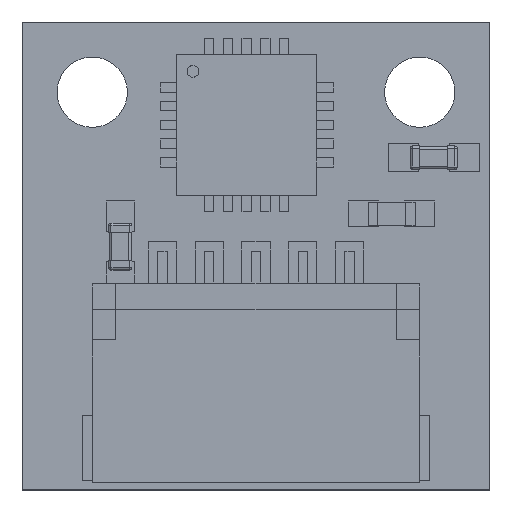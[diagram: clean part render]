
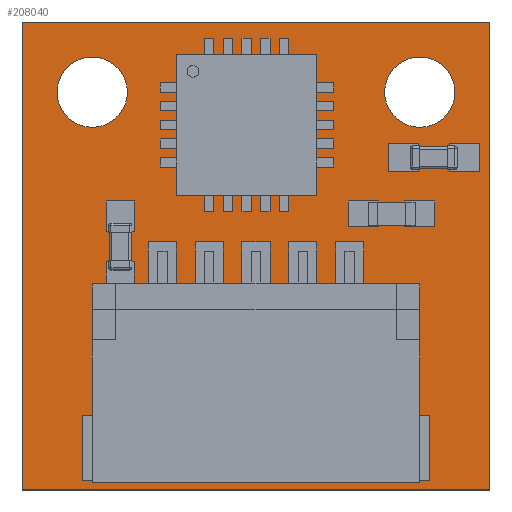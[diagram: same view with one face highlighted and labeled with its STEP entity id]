
A CAD part, top view. The second image highlights one B-rep face of the part: STEP entity #208040.
In plain terms, the highlighted planar face has unit normal (0, 0, 1).
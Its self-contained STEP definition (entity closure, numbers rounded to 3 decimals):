
#207564 = VERTEX_POINT('',#207565);
#207565 = CARTESIAN_POINT('',(15.,10.,0.6));
#207572 = PLANE('',#207573);
#207573 = AXIS2_PLACEMENT_3D('',#207574,#207575,#207576);
#207574 = CARTESIAN_POINT('',(15.,10.,0.));
#207575 = DIRECTION('',(0.,1.,0.));
#207576 = DIRECTION('',(1.,0.,0.));
#207584 = PLANE('',#207585);
#207585 = AXIS2_PLACEMENT_3D('',#207586,#207587,#207588);
#207586 = CARTESIAN_POINT('',(15.,20.,0.));
#207587 = DIRECTION('',(1.,0.,0.));
#207588 = DIRECTION('',(0.,-1.,0.));
#207596 = EDGE_CURVE('',#207564,#207597,#207599,.T.);
#207597 = VERTEX_POINT('',#207598);
#207598 = CARTESIAN_POINT('',(25.,10.,0.6));
#207599 = SURFACE_CURVE('',#207600,(#207604,#207611),.PCURVE_S1.);
#207600 = LINE('',#207601,#207602);
#207601 = CARTESIAN_POINT('',(15.,10.,0.6));
#207602 = VECTOR('',#207603,1.);
#207603 = DIRECTION('',(1.,0.,0.));
#207604 = PCURVE('',#207572,#207605);
#207605 = DEFINITIONAL_REPRESENTATION('',(#207606),#207610);
#207606 = LINE('',#207607,#207608);
#207607 = CARTESIAN_POINT('',(0.,-0.6));
#207608 = VECTOR('',#207609,1.);
#207609 = DIRECTION('',(1.,0.));
#207610 = ( GEOMETRIC_REPRESENTATION_CONTEXT(2) 
PARAMETRIC_REPRESENTATION_CONTEXT() REPRESENTATION_CONTEXT('2D SPACE',''
  ) );
#207611 = PCURVE('',#207612,#207617);
#207612 = PLANE('',#207613);
#207613 = AXIS2_PLACEMENT_3D('',#207614,#207615,#207616);
#207614 = CARTESIAN_POINT('',(20.,15.,0.6));
#207615 = DIRECTION('',(0.,0.,1.));
#207616 = DIRECTION('',(1.,0.,-0.));
#207617 = DEFINITIONAL_REPRESENTATION('',(#207618),#207622);
#207618 = LINE('',#207619,#207620);
#207619 = CARTESIAN_POINT('',(-5.,-5.));
#207620 = VECTOR('',#207621,1.);
#207621 = DIRECTION('',(1.,0.));
#207622 = ( GEOMETRIC_REPRESENTATION_CONTEXT(2) 
PARAMETRIC_REPRESENTATION_CONTEXT() REPRESENTATION_CONTEXT('2D SPACE',''
  ) );
#207640 = PLANE('',#207641);
#207641 = AXIS2_PLACEMENT_3D('',#207642,#207643,#207644);
#207642 = CARTESIAN_POINT('',(25.,10.,0.));
#207643 = DIRECTION('',(-1.,0.,0.));
#207644 = DIRECTION('',(0.,1.,0.));
#207684 = VERTEX_POINT('',#207685);
#207685 = CARTESIAN_POINT('',(15.,20.,0.6));
#207699 = PLANE('',#207700);
#207700 = AXIS2_PLACEMENT_3D('',#207701,#207702,#207703);
#207701 = CARTESIAN_POINT('',(25.,20.,0.));
#207702 = DIRECTION('',(0.,-1.,0.));
#207703 = DIRECTION('',(-1.,0.,0.));
#207711 = EDGE_CURVE('',#207684,#207564,#207712,.T.);
#207712 = SURFACE_CURVE('',#207713,(#207717,#207724),.PCURVE_S1.);
#207713 = LINE('',#207714,#207715);
#207714 = CARTESIAN_POINT('',(15.,20.,0.6));
#207715 = VECTOR('',#207716,1.);
#207716 = DIRECTION('',(0.,-1.,0.));
#207717 = PCURVE('',#207584,#207718);
#207718 = DEFINITIONAL_REPRESENTATION('',(#207719),#207723);
#207719 = LINE('',#207720,#207721);
#207720 = CARTESIAN_POINT('',(0.,-0.6));
#207721 = VECTOR('',#207722,1.);
#207722 = DIRECTION('',(1.,0.));
#207723 = ( GEOMETRIC_REPRESENTATION_CONTEXT(2) 
PARAMETRIC_REPRESENTATION_CONTEXT() REPRESENTATION_CONTEXT('2D SPACE',''
  ) );
#207724 = PCURVE('',#207612,#207725);
#207725 = DEFINITIONAL_REPRESENTATION('',(#207726),#207730);
#207726 = LINE('',#207727,#207728);
#207727 = CARTESIAN_POINT('',(-5.,5.));
#207728 = VECTOR('',#207729,1.);
#207729 = DIRECTION('',(0.,-1.));
#207730 = ( GEOMETRIC_REPRESENTATION_CONTEXT(2) 
PARAMETRIC_REPRESENTATION_CONTEXT() REPRESENTATION_CONTEXT('2D SPACE',''
  ) );
#207758 = EDGE_CURVE('',#207597,#207759,#207761,.T.);
#207759 = VERTEX_POINT('',#207760);
#207760 = CARTESIAN_POINT('',(25.,20.,0.6));
#207761 = SURFACE_CURVE('',#207762,(#207766,#207773),.PCURVE_S1.);
#207762 = LINE('',#207763,#207764);
#207763 = CARTESIAN_POINT('',(25.,10.,0.6));
#207764 = VECTOR('',#207765,1.);
#207765 = DIRECTION('',(0.,1.,0.));
#207766 = PCURVE('',#207640,#207767);
#207767 = DEFINITIONAL_REPRESENTATION('',(#207768),#207772);
#207768 = LINE('',#207769,#207770);
#207769 = CARTESIAN_POINT('',(0.,-0.6));
#207770 = VECTOR('',#207771,1.);
#207771 = DIRECTION('',(1.,0.));
#207772 = ( GEOMETRIC_REPRESENTATION_CONTEXT(2) 
PARAMETRIC_REPRESENTATION_CONTEXT() REPRESENTATION_CONTEXT('2D SPACE',''
  ) );
#207773 = PCURVE('',#207612,#207774);
#207774 = DEFINITIONAL_REPRESENTATION('',(#207775),#207779);
#207775 = LINE('',#207776,#207777);
#207776 = CARTESIAN_POINT('',(5.,-5.));
#207777 = VECTOR('',#207778,1.);
#207778 = DIRECTION('',(0.,1.));
#207779 = ( GEOMETRIC_REPRESENTATION_CONTEXT(2) 
PARAMETRIC_REPRESENTATION_CONTEXT() REPRESENTATION_CONTEXT('2D SPACE',''
  ) );
#207829 = EDGE_CURVE('',#207759,#207684,#207830,.T.);
#207830 = SURFACE_CURVE('',#207831,(#207835,#207842),.PCURVE_S1.);
#207831 = LINE('',#207832,#207833);
#207832 = CARTESIAN_POINT('',(25.,20.,0.6));
#207833 = VECTOR('',#207834,1.);
#207834 = DIRECTION('',(-1.,0.,0.));
#207835 = PCURVE('',#207699,#207836);
#207836 = DEFINITIONAL_REPRESENTATION('',(#207837),#207841);
#207837 = LINE('',#207838,#207839);
#207838 = CARTESIAN_POINT('',(0.,-0.6));
#207839 = VECTOR('',#207840,1.);
#207840 = DIRECTION('',(1.,0.));
#207841 = ( GEOMETRIC_REPRESENTATION_CONTEXT(2) 
PARAMETRIC_REPRESENTATION_CONTEXT() REPRESENTATION_CONTEXT('2D SPACE',''
  ) );
#207842 = PCURVE('',#207612,#207843);
#207843 = DEFINITIONAL_REPRESENTATION('',(#207844),#207848);
#207844 = LINE('',#207845,#207846);
#207845 = CARTESIAN_POINT('',(5.,5.));
#207846 = VECTOR('',#207847,1.);
#207847 = DIRECTION('',(-1.,0.));
#207848 = ( GEOMETRIC_REPRESENTATION_CONTEXT(2) 
PARAMETRIC_REPRESENTATION_CONTEXT() REPRESENTATION_CONTEXT('2D SPACE',''
  ) );
#207885 = CYLINDRICAL_SURFACE('',#207886,0.751);
#207886 = AXIS2_PLACEMENT_3D('',#207887,#207888,#207889);
#207887 = CARTESIAN_POINT('',(16.5,18.5,0.));
#207888 = DIRECTION('',(-0.,-0.,-1.));
#207889 = DIRECTION('',(1.,0.,0.));
#207905 = VERTEX_POINT('',#207906);
#207906 = CARTESIAN_POINT('',(17.251,18.5,0.6));
#207927 = EDGE_CURVE('',#207905,#207905,#207928,.T.);
#207928 = SURFACE_CURVE('',#207929,(#207934,#207941),.PCURVE_S1.);
#207929 = CIRCLE('',#207930,0.751);
#207930 = AXIS2_PLACEMENT_3D('',#207931,#207932,#207933);
#207931 = CARTESIAN_POINT('',(16.5,18.5,0.6));
#207932 = DIRECTION('',(0.,0.,1.));
#207933 = DIRECTION('',(1.,0.,-0.));
#207934 = PCURVE('',#207885,#207935);
#207935 = DEFINITIONAL_REPRESENTATION('',(#207936),#207940);
#207936 = LINE('',#207937,#207938);
#207937 = CARTESIAN_POINT('',(6.283,-0.6));
#207938 = VECTOR('',#207939,1.);
#207939 = DIRECTION('',(-1.,0.));
#207940 = ( GEOMETRIC_REPRESENTATION_CONTEXT(2) 
PARAMETRIC_REPRESENTATION_CONTEXT() REPRESENTATION_CONTEXT('2D SPACE',''
  ) );
#207941 = PCURVE('',#207612,#207942);
#207942 = DEFINITIONAL_REPRESENTATION('',(#207943),#207947);
#207943 = CIRCLE('',#207944,0.751);
#207944 = AXIS2_PLACEMENT_2D('',#207945,#207946);
#207945 = CARTESIAN_POINT('',(-3.5,3.5));
#207946 = DIRECTION('',(1.,0.));
#207947 = ( GEOMETRIC_REPRESENTATION_CONTEXT(2) 
PARAMETRIC_REPRESENTATION_CONTEXT() REPRESENTATION_CONTEXT('2D SPACE',''
  ) );
#207963 = CYLINDRICAL_SURFACE('',#207964,0.751);
#207964 = AXIS2_PLACEMENT_3D('',#207965,#207966,#207967);
#207965 = CARTESIAN_POINT('',(23.5,18.5,0.));
#207966 = DIRECTION('',(-0.,-0.,-1.));
#207967 = DIRECTION('',(1.,0.,0.));
#207983 = VERTEX_POINT('',#207984);
#207984 = CARTESIAN_POINT('',(24.251,18.5,0.6));
#208005 = EDGE_CURVE('',#207983,#207983,#208006,.T.);
#208006 = SURFACE_CURVE('',#208007,(#208012,#208019),.PCURVE_S1.);
#208007 = CIRCLE('',#208008,0.751);
#208008 = AXIS2_PLACEMENT_3D('',#208009,#208010,#208011);
#208009 = CARTESIAN_POINT('',(23.5,18.5,0.6));
#208010 = DIRECTION('',(0.,0.,1.));
#208011 = DIRECTION('',(1.,0.,-0.));
#208012 = PCURVE('',#207963,#208013);
#208013 = DEFINITIONAL_REPRESENTATION('',(#208014),#208018);
#208014 = LINE('',#208015,#208016);
#208015 = CARTESIAN_POINT('',(6.283,-0.6));
#208016 = VECTOR('',#208017,1.);
#208017 = DIRECTION('',(-1.,0.));
#208018 = ( GEOMETRIC_REPRESENTATION_CONTEXT(2) 
PARAMETRIC_REPRESENTATION_CONTEXT() REPRESENTATION_CONTEXT('2D SPACE',''
  ) );
#208019 = PCURVE('',#207612,#208020);
#208020 = DEFINITIONAL_REPRESENTATION('',(#208021),#208025);
#208021 = CIRCLE('',#208022,0.751);
#208022 = AXIS2_PLACEMENT_2D('',#208023,#208024);
#208023 = CARTESIAN_POINT('',(3.5,3.5));
#208024 = DIRECTION('',(1.,0.));
#208025 = ( GEOMETRIC_REPRESENTATION_CONTEXT(2) 
PARAMETRIC_REPRESENTATION_CONTEXT() REPRESENTATION_CONTEXT('2D SPACE',''
  ) );
#208040 = ADVANCED_FACE('',(#208041,#208047,#208050),#207612,.T.);
#208041 = FACE_BOUND('',#208042,.T.);
#208042 = EDGE_LOOP('',(#208043,#208044,#208045,#208046));
#208043 = ORIENTED_EDGE('',*,*,#207596,.T.);
#208044 = ORIENTED_EDGE('',*,*,#207758,.T.);
#208045 = ORIENTED_EDGE('',*,*,#207829,.T.);
#208046 = ORIENTED_EDGE('',*,*,#207711,.T.);
#208047 = FACE_BOUND('',#208048,.T.);
#208048 = EDGE_LOOP('',(#208049));
#208049 = ORIENTED_EDGE('',*,*,#207927,.F.);
#208050 = FACE_BOUND('',#208051,.T.);
#208051 = EDGE_LOOP('',(#208052));
#208052 = ORIENTED_EDGE('',*,*,#208005,.F.);
